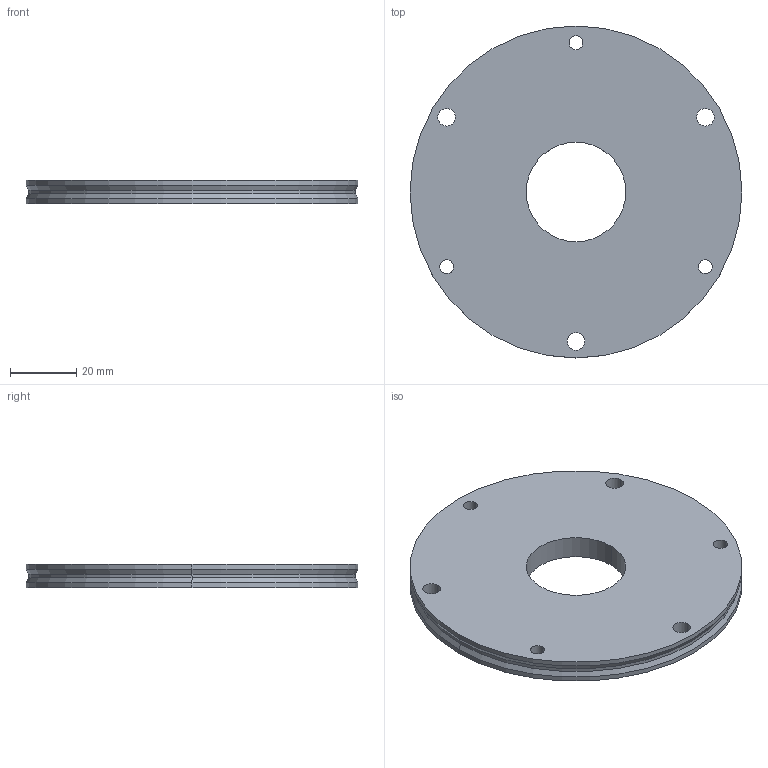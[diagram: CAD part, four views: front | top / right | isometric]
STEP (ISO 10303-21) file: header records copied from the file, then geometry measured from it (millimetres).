
FILE_DESCRIPTION (( 'STEP AP214' ), '1' );
FILE_NAME ('0338 Flansch.STEP', '2025-03-26T07:25:41', ( '' ), ( '' ), 'SwSTEP 2.0', 'SolidWorks 2022', '' );
FILE_SCHEMA (( 'AUTOMOTIVE_DESIGN' ));
Length unit declared in the file: millimetre
Products named in the file (1): 0338 Flansch
Bounding box: 100 x 100 x 7 mm (x, y, z)
Volume: 48642.1 mm3; surface area: 17673.6 mm2
Topology: 1 solids, 1 shells, 26 faces, 64 edges, 40 vertices
Faces by surface type: cylinder 20, cone 4, plane 2
Entity records: 912 total; most frequent: DIRECTION 158, CARTESIAN_POINT 131, ORIENTED_EDGE 128, AXIS2_PLACEMENT_3D 67, EDGE_CURVE 64, EDGE_LOOP 40, CIRCLE 40, VERTEX_POINT 40
